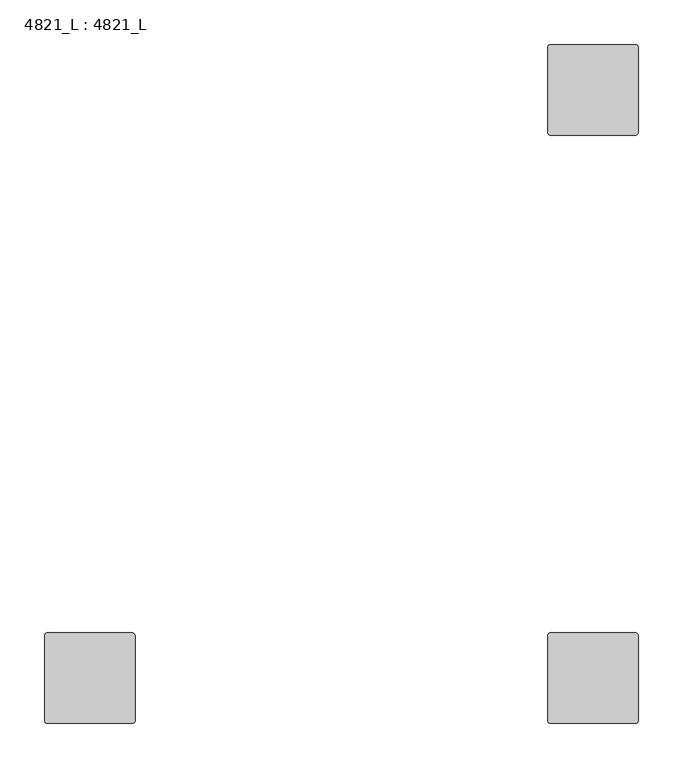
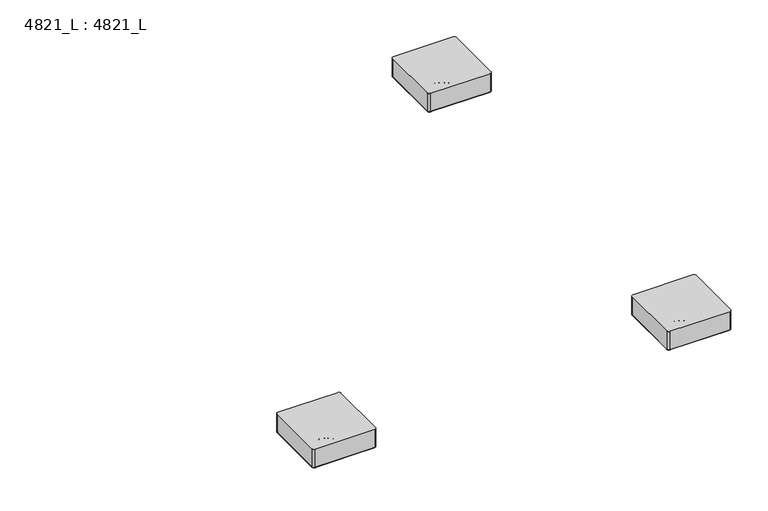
"""IFC4 building model written with IfcOpenShell, lengths in millimetres: furniture geometry, 4821_L : 4821_L."""

from ifc_helpers import new_model, si_unit, point, frame, frame_2d, origin, place, context, project, spatial, polyline, circle_curve, ellipse_curve, trimmed, segment, composite_curve, outline, extrude, source, transform, mapped, element, save
from ifc_brep_helpers import plane_surface, cylinder_surface, revolved_surface, advanced_brep


def furniture_4821_l_4821_l_946ea36c(model_context):
    return source(origin(), model_context, "Body", "SolidModel", [
        advanced_brep(
        [(155.575, -698.5, 41.5925), (60.325, -698.5, 41.5925), (57.15, -701.675, 41.5925), (57.15, -796.925, 41.5925), (60.325, -800.1, 41.5925), (155.575, -800.1, 41.5925), (158.75, -796.925, 41.5925), (158.75, -701.675, 41.5925), (58.42, -701.675, 11.1125), (60.325, -699.77, 11.1125), (155.575, -699.77, 11.1125), (157.48, -701.675, 11.1125), (157.48, -796.925, 11.1125), (155.575, -798.83, 11.1125), (60.325, -798.83, 11.1125), (58.42, -796.925, 11.1125), (155.575, -698.5, 11.1125), (60.325, -698.5, 11.1125), (57.15, -701.675, 11.1125), (57.15, -796.925, 11.1125), (60.325, -800.1, 11.1125), (155.575, -800.1, 11.1125), (158.75, -796.925, 11.1125), (158.75, -701.675, 11.1125), (60.325, -699.77, 9.8425), (58.42, -701.675, 9.8425), (155.575, -699.77, 9.8425), (157.48, -701.675, 9.8425), (157.48, -796.925, 9.8425), (155.575, -798.83, 9.8425), (60.325, -798.83, 9.8425), (58.42, -796.925, 9.8425)],
        [
            (0, 1),
            (1, 2, circle_curve(frame((60.325, -701.675, 41.5925), z_axis=(0.0, 0.0, 1.0), x_axis=(1.0, 0.0, 0.0)), 3.175)),
            (2, 3),
            (3, 4, circle_curve(frame((60.325, -796.925, 41.5925), z_axis=(0.0, 0.0, 1.0), x_axis=(1.0, 0.0, 0.0)), 3.175)),
            (4, 5),
            (5, 6, circle_curve(frame((155.575, -796.925, 41.5925), z_axis=(0.0, 0.0, 1.0), x_axis=(1.0, 0.0, 0.0)), 3.175)),
            (6, 7),
            (7, 0, circle_curve(frame((155.575, -701.675, 41.5925), z_axis=(0.0, 0.0, 1.0), x_axis=(1.0, 0.0, 0.0)), 3.175)),
            (8, 9, circle_curve(frame((60.325, -701.675, 11.1125), z_axis=(0.0, 0.0, -1.0), x_axis=(-1.0, 0.0, 0.0)), 1.905)),
            (9, 10),
            (10, 11, circle_curve(frame((155.575, -701.675, 11.1125), z_axis=(0.0, 0.0, -1.0), x_axis=(0.0, 1.0, 0.0)), 1.905)),
            (11, 12),
            (12, 13, circle_curve(frame((155.575, -796.925, 11.1125), z_axis=(0.0, 0.0, -1.0), x_axis=(1.0, 0.0, 0.0)), 1.905)),
            (13, 14),
            (14, 15, circle_curve(frame((60.325, -796.925, 11.1125), z_axis=(0.0, 0.0, -1.0), x_axis=(0.0, -1.0, 0.0)), 1.905)),
            (15, 8),
            (0, 16),
            (16, 17),
            (17, 1),
            (17, 18, circle_curve(frame((60.325, -701.675, 11.1125), z_axis=(0.0, 0.0, 1.0), x_axis=(1.0, 0.0, 0.0)), 3.175)),
            (18, 2),
            (18, 19),
            (19, 3),
            (19, 20, circle_curve(frame((60.325, -796.925, 11.1125), z_axis=(0.0, 0.0, 1.0), x_axis=(1.0, 0.0, 0.0)), 3.175)),
            (20, 4),
            (20, 21),
            (21, 5),
            (21, 22, circle_curve(frame((155.575, -796.925, 11.1125), z_axis=(0.0, 0.0, 1.0), x_axis=(1.0, 0.0, 0.0)), 3.175)),
            (22, 6),
            (22, 23),
            (23, 7),
            (23, 16, circle_curve(frame((155.575, -701.675, 11.1125), z_axis=(0.0, 0.0, 1.0), x_axis=(1.0, 0.0, 0.0)), 3.175)),
            (24, 25, circle_curve(frame((60.325, -701.675, 9.8425), z_axis=(0.0, 0.0, 1.0), x_axis=(-1.0, 0.0, 0.0)), 1.905)),
            (25, 18, circle_curve(frame((58.42, -701.675, 11.1125), z_axis=(0.0, 1.0, 0.0), x_axis=(1.0, 0.0, 0.0)), 1.27)),
            (17, 24, circle_curve(frame((60.325, -699.77, 11.1125), z_axis=(-1.0, 0.0, 0.0), x_axis=(0.0, -1.0, 0.0)), 1.27)),
            (16, 26, circle_curve(frame((155.575, -699.77, 11.1125), z_axis=(-1.0, 0.0, 0.0), x_axis=(0.0, -1.0, 0.0)), 1.27)),
            (26, 24),
            (23, 27, circle_curve(frame((157.48, -701.675, 11.1125), z_axis=(0.0, 1.0, 0.0), x_axis=(-1.0, 0.0, 0.0)), 1.27)),
            (27, 26, circle_curve(frame((155.575, -701.675, 9.8425), z_axis=(0.0, 0.0, 1.0), x_axis=(0.0, 1.0, 0.0)), 1.905)),
            (22, 28, circle_curve(frame((157.48, -796.925, 11.1125), z_axis=(0.0, 1.0, 0.0), x_axis=(-1.0, 0.0, 0.0)), 1.27)),
            (28, 27),
            (21, 29, circle_curve(frame((155.575, -798.83, 11.1125), z_axis=(1.0, 0.0, 0.0), x_axis=(0.0, 1.0, 0.0)), 1.27)),
            (29, 28, circle_curve(frame((155.575, -796.925, 9.8425), z_axis=(0.0, 0.0, 1.0), x_axis=(1.0, 0.0, 0.0)), 1.905)),
            (20, 30, circle_curve(frame((60.325, -798.83, 11.1125), z_axis=(1.0, 0.0, 0.0), x_axis=(0.0, 1.0, 0.0)), 1.27)),
            (30, 29),
            (19, 31, circle_curve(frame((58.42, -796.925, 11.1125), z_axis=(0.0, -1.0, 0.0), x_axis=(1.0, 0.0, 0.0)), 1.27)),
            (31, 30, circle_curve(frame((60.325, -796.925, 9.8425), z_axis=(0.0, 0.0, 1.0), x_axis=(0.0, -1.0, 0.0)), 1.905)),
            (25, 31),
            (24, 9),
            (8, 25),
            (26, 10),
            (27, 11),
            (28, 12),
            (29, 13),
            (30, 14),
            (31, 15),
        ],
        [
            plane_surface(frame((60.325, -698.5, 41.5925), z_axis=(0.0, 0.0, 1.0), x_axis=(-1.0, 0.0, 0.0))),
            plane_surface(frame((60.325, -698.5, 11.1125), z_axis=(0.0, 0.0, -1.0), x_axis=(1.0, 0.0, 0.0))),
            plane_surface(frame((155.575, -698.5, 41.5925), z_axis=(0.0, 1.0, 0.0), x_axis=(0.0, 0.0, -1.0))),
            cylinder_surface(frame((60.325, -701.675, 11.1125), z_axis=(0.0, 0.0, 1.0), x_axis=(1.0, 0.0, 0.0)), 3.175),
            plane_surface(frame((57.15, -701.675, 41.5925), z_axis=(-1.0, 0.0, 0.0), x_axis=(0.0, 0.0, -1.0))),
            cylinder_surface(frame((60.325, -796.925, 11.1125), z_axis=(0.0, 0.0, 1.0), x_axis=(1.0, 0.0, 0.0)), 3.175),
            plane_surface(frame((60.325, -800.1, 41.5925), z_axis=(0.0, -1.0, 0.0), x_axis=(0.0, 0.0, -1.0))),
            cylinder_surface(frame((155.575, -796.925, 11.1125), z_axis=(0.0, 0.0, 1.0), x_axis=(1.0, 0.0, 0.0)), 3.175),
            plane_surface(frame((158.75, -796.925, 41.5925), z_axis=(1.0, 0.0, 0.0), x_axis=(0.0, 0.0, -1.0))),
            cylinder_surface(frame((155.575, -701.675, 11.1125), z_axis=(0.0, 0.0, 1.0), x_axis=(1.0, 0.0, 0.0)), 3.175),
            revolved_surface(trimmed(ellipse_curve(frame((58.42, -701.675, 11.1125), z_axis=(0.0, -1.0, 0.0), x_axis=(1.0, 0.0, 0.0)), 1.27, 1.27), [point((57.15, -701.675, 11.1125))], [point((58.42, -701.675, 9.8425))], True, "CARTESIAN"), (60.325, -701.675, 11.1125), (0.0, 0.0, -1.0)),
            cylinder_surface(frame((60.325, -699.77, 11.1125), z_axis=(-1.0, 0.0, 0.0), x_axis=(0.0, -1.0, 0.0)), 1.27),
            revolved_surface(trimmed(ellipse_curve(frame((155.575, -699.77, 11.1125), z_axis=(-1.0, 0.0, 0.0), x_axis=(0.0, -1.0, 0.0)), 1.27, 1.27), [point((155.575, -698.5, 11.1125))], [point((155.575, -699.77, 9.8425))], True, "CARTESIAN"), (155.575, -701.675, 11.1125), (0.0, 0.0, -1.0)),
            cylinder_surface(frame((157.48, -701.675, 11.1125), z_axis=(0.0, 1.0, 0.0), x_axis=(-1.0, 0.0, 0.0)), 1.27),
            revolved_surface(trimmed(ellipse_curve(frame((157.48, -796.925, 11.1125), z_axis=(0.0, 1.0, 0.0), x_axis=(-1.0, 0.0, 0.0)), 1.27, 1.27), [point((158.75, -796.925, 11.1125))], [point((157.48, -796.925, 9.8425))], True, "CARTESIAN"), (155.575, -796.925, 11.1125), (0.0, 0.0, -1.0)),
            cylinder_surface(frame((155.575, -798.83, 11.1125), z_axis=(1.0, 0.0, 0.0), x_axis=(0.0, 1.0, 0.0)), 1.27),
            revolved_surface(trimmed(ellipse_curve(frame((60.325, -798.83, 11.1125), z_axis=(1.0, 0.0, 0.0), x_axis=(0.0, 1.0, 0.0)), 1.27, 1.27), [point((60.325, -800.1, 11.1125))], [point((60.325, -798.83, 9.8425))], True, "CARTESIAN"), (60.325, -796.925, 11.1125), (0.0, 0.0, -1.0)),
            cylinder_surface(frame((58.42, -796.925, 11.1125), z_axis=(0.0, -1.0, 0.0), x_axis=(1.0, 0.0, 0.0)), 1.27),
            revolved_surface(polyline([(58.42, -701.675, 9.8425), (58.42, -701.675, 11.1125)]), (60.325, -701.675, 11.1125), (0.0, 0.0, -1.0)),
            plane_surface(frame((60.325, -699.77, 9.8425), z_axis=(0.0, -1.0, 0.0), x_axis=(1.0, 0.0, 0.0))),
            revolved_surface(polyline([(155.575, -699.77, 9.8425), (155.575, -699.77, 11.1125)]), (155.575, -701.675, 11.1125), (0.0, 0.0, -1.0)),
            plane_surface(frame((157.48, -701.675, 9.8425), z_axis=(-1.0, 0.0, 0.0), x_axis=(0.0, -1.0, 0.0))),
            revolved_surface(polyline([(157.48, -796.925, 9.8425), (157.48, -796.925, 11.1125)]), (155.575, -796.925, 11.1125), (0.0, 0.0, -1.0)),
            plane_surface(frame((155.575, -798.83, 9.8425), z_axis=(0.0, 1.0, 0.0), x_axis=(-1.0, 0.0, 0.0))),
            revolved_surface(polyline([(60.325, -798.8299999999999, 9.8425), (60.325, -798.8299999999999, 11.1125)]), (60.325, -796.925, 11.1125), (0.0, 0.0, -1.0)),
            plane_surface(frame((58.42, -796.925, 9.8425), z_axis=(1.0, 0.0, 0.0), x_axis=(0.0, 1.0, 0.0))),
        ],
        [
            (0, [[1, 2, 3, 4, 5, 6, 7, 8]]),
            (1, [[9, 10, 11, 12, 13, 14, 15, 16]]),
            (2, [[-1, 17, 18, 19]]),
            (3, [[-2, -19, 20, 21]]),
            (4, [[-3, -21, 22, 23]]),
            (5, [[-4, -23, 24, 25]]),
            (6, [[-5, -25, 26, 27]]),
            (7, [[-6, -27, 28, 29]]),
            (8, [[-7, -29, 30, 31]]),
            (9, [[-8, -31, 32, -17]]),
            (10, [[33, 34, -20, 35]]),
            (11, [[-35, -18, 36, 37]]),
            (12, [[-36, -32, 38, 39]]),
            (13, [[-38, -30, 40, 41]]),
            (14, [[-40, -28, 42, 43]]),
            (15, [[-42, -26, 44, 45]]),
            (16, [[-44, -24, 46, 47]]),
            (17, [[-34, 48, -46, -22]]),
            (18, [[-33, 49, -9, 50]]),
            (19, [[-37, 51, -10, -49]]),
            (20, [[-39, 52, -11, -51]]),
            (21, [[-41, 53, -12, -52]]),
            (22, [[-43, 54, -13, -53]]),
            (23, [[-45, 55, -14, -54]]),
            (24, [[-47, 56, -15, -55]]),
            (25, [[-48, -50, -16, -56]]),
        ],
    ),
        extrude(outline(composite_curve([segment(trimmed(circle_curve(frame_2d((60.325, -796.925)), 1.905), [point((60.325, -798.83))], [point((58.42, -796.925))], False, "CARTESIAN"), True, "CONTINUOUS"), segment(polyline([(58.42, -796.925), (58.42, -701.675)]), True, "CONTINUOUS"), segment(trimmed(circle_curve(frame_2d((60.325, -701.675)), 1.905), [point((58.42, -701.675))], [point((60.325, -699.77))], False, "CARTESIAN"), True, "CONTINUOUS"), segment(polyline([(60.325, -699.77), (155.575, -699.77)]), True, "CONTINUOUS"), segment(trimmed(circle_curve(frame_2d((155.575, -701.675)), 1.905), [point((155.575, -699.77))], [point((157.48, -701.675))], False, "CARTESIAN"), True, "CONTINUOUS"), segment(polyline([(157.48, -701.675), (157.48, -796.925)]), True, "CONTINUOUS"), segment(trimmed(circle_curve(frame_2d((155.575, -796.925)), 1.905), [point((157.48, -796.925))], [point((155.575, -798.83))], False, "CARTESIAN"), True, "CONTINUOUS"), segment(polyline([(155.575, -798.83), (60.325, -798.83)]), True, "CONTINUOUS")], self_intersect=False)), frame((0.0, 0.0, 9.8425), z_axis=(0.0, 0.0, 1.0), x_axis=(1.0, 0.0, 0.0)), (0.0, 0.0, 1.0), 1.27),
        advanced_brep(
        [(97.7978666, -749.3, 0.0), (118.1021334, -749.3, 0.0), (107.95, -749.3, 0.0), (97.4725, -749.3, 5.08), (118.4275, -749.3, 5.08), (97.4725, -749.3, 9.0481974), (118.4275, -749.3, 9.0481974), (98.2668026, -749.3, 9.8425), (117.6331974, -749.3, 9.8425), (107.95, -749.3, 9.8425)],
        [
            (0, 1, circle_curve(frame((107.95, -749.3, 0.0), z_axis=(0.0, 0.0, -1.0), x_axis=(1.0, 0.0, 0.0)), 10.1521334)),
            (1, 2),
            (2, 0),
            (1, 0, circle_curve(frame((107.95, -749.3, 0.0), z_axis=(0.0, 0.0, -1.0), x_axis=(1.0, 0.0, 0.0)), 10.1521334)),
            (3, 4, circle_curve(frame((107.95, -749.3, 5.08), z_axis=(0.0, 0.0, -1.0), x_axis=(1.0, 0.0, 0.0)), 10.4775)),
            (4, 1, circle_curve(frame((118.1021334, -749.3, 2.5504196), z_axis=(0.0, 1.0, 0.0), x_axis=(1.0, 0.0, 0.0)), 2.5504196)),
            (0, 3, circle_curve(frame((97.7978666, -749.3, 2.5504196), z_axis=(0.0, 1.0, 0.0), x_axis=(-1.0, 0.0, 0.0)), 2.5504196)),
            (4, 3, circle_curve(frame((107.95, -749.3, 5.08), z_axis=(0.0, 0.0, -1.0), x_axis=(1.0, 0.0, 0.0)), 10.4775)),
            (5, 6, circle_curve(frame((107.95, -749.3, 9.0481974), z_axis=(0.0, 0.0, -1.0), x_axis=(1.0, 0.0, 0.0)), 10.4775)),
            (6, 4),
            (3, 5),
            (6, 5, circle_curve(frame((107.95, -749.3, 9.0481974), z_axis=(0.0, 0.0, -1.0), x_axis=(1.0, 0.0, 0.0)), 10.4775)),
            (7, 8, circle_curve(frame((107.95, -749.3, 9.8425), z_axis=(0.0, 0.0, -1.0), x_axis=(1.0, 0.0, 0.0)), 9.6831974)),
            (8, 6, circle_curve(frame((117.6331974, -749.3, 9.0481974), z_axis=(0.0, 1.0, 0.0), x_axis=(1.0, 0.0, 0.0)), 0.7943026)),
            (5, 7, circle_curve(frame((98.2668026, -749.3, 9.0481974), z_axis=(0.0, 1.0, 0.0), x_axis=(-1.0, 0.0, 0.0)), 0.7943026)),
            (8, 7, circle_curve(frame((107.95, -749.3, 9.8425), z_axis=(0.0, 0.0, -1.0), x_axis=(1.0, 0.0, 0.0)), 9.6831974)),
            (9, 8),
            (7, 9),
        ],
        [
            plane_surface(frame((107.95, -749.3, 0.0), z_axis=(0.0, 0.0, -1.0), x_axis=(1.0, 0.0, 0.0))),
            revolved_surface(trimmed(ellipse_curve(frame((118.1021334, -749.3, 2.5504196), z_axis=(0.0, -1.0, 0.0), x_axis=(1.0, 0.0, 0.0)), 2.5504196, 2.5504196), [point((118.1021334, -749.3, 0.0))], [point((118.4275, -749.3, 5.08))], True, "CARTESIAN"), (107.95, -749.3, 9.8425), (0.0, 0.0, 1.0)),
            cylinder_surface(frame((107.95, -749.3, 9.8425), z_axis=(0.0, 0.0, 1.0), x_axis=(1.0, 0.0, 0.0)), 10.4775),
            revolved_surface(trimmed(ellipse_curve(frame((117.6331974, -749.3, 9.0481974), z_axis=(0.0, -1.0, 0.0), x_axis=(1.0, 0.0, 0.0)), 0.7943026, 0.7943026), [point((118.4275, -749.3, 9.0481974))], [point((117.6331974, -749.3, 9.8425))], True, "CARTESIAN"), (107.95, -749.3, 9.8425), (0.0, 0.0, 1.0)),
            plane_surface(frame((107.95, -749.3, 9.8425), z_axis=(0.0, 0.0, 1.0), x_axis=(1.0, 0.0, 0.0))),
        ],
        [
            (0, [[1, 2, 3]]),
            (0, [[4, -3, -2]]),
            (1, [[5, 6, -1, 7]]),
            (1, [[8, -7, -4, -6]]),
            (2, [[9, 10, -5, 11]]),
            (2, [[12, -11, -8, -10]]),
            (3, [[13, 14, -9, 15]]),
            (3, [[16, -15, -12, -14]]),
            (4, [[17, -13, 18]]),
            (4, [[-18, -16, -17]]),
        ],
    ),
        advanced_brep(
        [(720.725, -698.5, 41.5925), (625.475, -698.5, 41.5925), (622.3, -701.675, 41.5925), (622.3, -796.925, 41.5925), (625.475, -800.1, 41.5925), (720.725, -800.1, 41.5925), (723.9, -796.925, 41.5925), (723.9, -701.675, 41.5925), (623.57, -701.675, 11.1125), (625.475, -699.77, 11.1125), (720.725, -699.77, 11.1125), (722.63, -701.675, 11.1125), (722.63, -796.925, 11.1125), (720.725, -798.83, 11.1125), (625.475, -798.83, 11.1125), (623.57, -796.925, 11.1125), (720.725, -698.5, 11.1125), (625.475, -698.5, 11.1125), (622.3, -701.675, 11.1125), (622.3, -796.925, 11.1125), (625.475, -800.1, 11.1125), (720.725, -800.1, 11.1125), (723.9, -796.925, 11.1125), (723.9, -701.675, 11.1125), (625.475, -699.77, 9.8425), (623.57, -701.675, 9.8425), (720.725, -699.77, 9.8425), (722.63, -701.675, 9.8425), (722.63, -796.925, 9.8425), (720.725, -798.83, 9.8425), (625.475, -798.83, 9.8425), (623.57, -796.925, 9.8425)],
        [
            (0, 1),
            (1, 2, circle_curve(frame((625.475, -701.675, 41.5925), z_axis=(0.0, 0.0, 1.0), x_axis=(1.0, 0.0, 0.0)), 3.175)),
            (2, 3),
            (3, 4, circle_curve(frame((625.475, -796.925, 41.5925), z_axis=(0.0, 0.0, 1.0), x_axis=(1.0, 0.0, 0.0)), 3.175)),
            (4, 5),
            (5, 6, circle_curve(frame((720.725, -796.925, 41.5925), z_axis=(0.0, 0.0, 1.0), x_axis=(1.0, 0.0, 0.0)), 3.175)),
            (6, 7),
            (7, 0, circle_curve(frame((720.725, -701.675, 41.5925), z_axis=(0.0, 0.0, 1.0), x_axis=(1.0, 0.0, 0.0)), 3.175)),
            (8, 9, circle_curve(frame((625.475, -701.675, 11.1125), z_axis=(0.0, 0.0, -1.0), x_axis=(-1.0, 0.0, 0.0)), 1.905)),
            (9, 10),
            (10, 11, circle_curve(frame((720.725, -701.675, 11.1125), z_axis=(0.0, 0.0, -1.0), x_axis=(0.0, 1.0, 0.0)), 1.905)),
            (11, 12),
            (12, 13, circle_curve(frame((720.725, -796.925, 11.1125), z_axis=(0.0, 0.0, -1.0), x_axis=(1.0, 0.0, 0.0)), 1.905)),
            (13, 14),
            (14, 15, circle_curve(frame((625.475, -796.925, 11.1125), z_axis=(0.0, 0.0, -1.0), x_axis=(0.0, -1.0, 0.0)), 1.905)),
            (15, 8),
            (0, 16),
            (16, 17),
            (17, 1),
            (17, 18, circle_curve(frame((625.475, -701.675, 11.1125), z_axis=(0.0, 0.0, 1.0), x_axis=(1.0, 0.0, 0.0)), 3.175)),
            (18, 2),
            (18, 19),
            (19, 3),
            (19, 20, circle_curve(frame((625.475, -796.925, 11.1125), z_axis=(0.0, 0.0, 1.0), x_axis=(1.0, 0.0, 0.0)), 3.175)),
            (20, 4),
            (20, 21),
            (21, 5),
            (21, 22, circle_curve(frame((720.725, -796.925, 11.1125), z_axis=(0.0, 0.0, 1.0), x_axis=(1.0, 0.0, 0.0)), 3.175)),
            (22, 6),
            (22, 23),
            (23, 7),
            (23, 16, circle_curve(frame((720.725, -701.675, 11.1125), z_axis=(0.0, 0.0, 1.0), x_axis=(1.0, 0.0, 0.0)), 3.175)),
            (24, 25, circle_curve(frame((625.475, -701.675, 9.8425), z_axis=(0.0, 0.0, 1.0), x_axis=(-1.0, 0.0, 0.0)), 1.905)),
            (25, 18, circle_curve(frame((623.57, -701.675, 11.1125), z_axis=(0.0, 1.0, 0.0), x_axis=(1.0, 0.0, 0.0)), 1.27)),
            (17, 24, circle_curve(frame((625.475, -699.77, 11.1125), z_axis=(-1.0, 0.0, 0.0), x_axis=(0.0, -1.0, 0.0)), 1.27)),
            (16, 26, circle_curve(frame((720.725, -699.77, 11.1125), z_axis=(-1.0, 0.0, 0.0), x_axis=(0.0, -1.0, 0.0)), 1.27)),
            (26, 24),
            (23, 27, circle_curve(frame((722.63, -701.675, 11.1125), z_axis=(0.0, 1.0, 0.0), x_axis=(-1.0, 0.0, 0.0)), 1.27)),
            (27, 26, circle_curve(frame((720.725, -701.675, 9.8425), z_axis=(0.0, 0.0, 1.0), x_axis=(0.0, 1.0, 0.0)), 1.905)),
            (22, 28, circle_curve(frame((722.63, -796.925, 11.1125), z_axis=(0.0, 1.0, 0.0), x_axis=(-1.0, 0.0, 0.0)), 1.27)),
            (28, 27),
            (21, 29, circle_curve(frame((720.725, -798.83, 11.1125), z_axis=(1.0, 0.0, 0.0), x_axis=(0.0, 1.0, 0.0)), 1.27)),
            (29, 28, circle_curve(frame((720.725, -796.925, 9.8425), z_axis=(0.0, 0.0, 1.0), x_axis=(1.0, 0.0, 0.0)), 1.905)),
            (20, 30, circle_curve(frame((625.475, -798.83, 11.1125), z_axis=(1.0, 0.0, 0.0), x_axis=(0.0, 1.0, 0.0)), 1.27)),
            (30, 29),
            (19, 31, circle_curve(frame((623.57, -796.925, 11.1125), z_axis=(0.0, -1.0, 0.0), x_axis=(1.0, 0.0, 0.0)), 1.27)),
            (31, 30, circle_curve(frame((625.475, -796.925, 9.8425), z_axis=(0.0, 0.0, 1.0), x_axis=(0.0, -1.0, 0.0)), 1.905)),
            (25, 31),
            (24, 9),
            (8, 25),
            (26, 10),
            (27, 11),
            (28, 12),
            (29, 13),
            (30, 14),
            (31, 15),
        ],
        [
            plane_surface(frame((625.475, -698.5, 41.5925), z_axis=(0.0, 0.0, 1.0), x_axis=(-1.0, 0.0, 0.0))),
            plane_surface(frame((625.475, -698.5, 11.1125), z_axis=(0.0, 0.0, -1.0), x_axis=(1.0, 0.0, 0.0))),
            plane_surface(frame((720.725, -698.5, 41.5925), z_axis=(0.0, 1.0, 0.0), x_axis=(0.0, 0.0, -1.0))),
            cylinder_surface(frame((625.475, -701.675, 11.1125), z_axis=(0.0, 0.0, 1.0), x_axis=(1.0, 0.0, 0.0)), 3.175),
            plane_surface(frame((622.3, -701.675, 41.5925), z_axis=(-1.0, 0.0, 0.0), x_axis=(0.0, 0.0, -1.0))),
            cylinder_surface(frame((625.475, -796.925, 11.1125), z_axis=(0.0, 0.0, 1.0), x_axis=(1.0, 0.0, 0.0)), 3.175),
            plane_surface(frame((625.475, -800.1, 41.5925), z_axis=(0.0, -1.0, 0.0), x_axis=(0.0, 0.0, -1.0))),
            cylinder_surface(frame((720.725, -796.925, 11.1125), z_axis=(0.0, 0.0, 1.0), x_axis=(1.0, 0.0, 0.0)), 3.175),
            plane_surface(frame((723.9, -796.925, 41.5925), z_axis=(1.0, 0.0, 0.0), x_axis=(0.0, 0.0, -1.0))),
            cylinder_surface(frame((720.725, -701.675, 11.1125), z_axis=(0.0, 0.0, 1.0), x_axis=(1.0, 0.0, 0.0)), 3.175),
            revolved_surface(trimmed(ellipse_curve(frame((623.57, -701.675, 11.1125), z_axis=(0.0, -1.0, 0.0), x_axis=(1.0, 0.0, 0.0)), 1.27, 1.27), [point((622.3, -701.675, 11.1125))], [point((623.57, -701.675, 9.8425))], True, "CARTESIAN"), (625.475, -701.675, 11.1125), (0.0, 0.0, -1.0)),
            cylinder_surface(frame((625.475, -699.77, 11.1125), z_axis=(-1.0, 0.0, 0.0), x_axis=(0.0, -1.0, 0.0)), 1.27),
            revolved_surface(trimmed(ellipse_curve(frame((720.725, -699.77, 11.1125), z_axis=(-1.0, 0.0, 0.0), x_axis=(0.0, -1.0, 0.0)), 1.27, 1.27), [point((720.725, -698.5, 11.1125))], [point((720.725, -699.77, 9.8425))], True, "CARTESIAN"), (720.725, -701.675, 11.1125), (0.0, 0.0, -1.0)),
            cylinder_surface(frame((722.63, -701.675, 11.1125), z_axis=(0.0, 1.0, 0.0), x_axis=(-1.0, 0.0, 0.0)), 1.27),
            revolved_surface(trimmed(ellipse_curve(frame((722.63, -796.925, 11.1125), z_axis=(0.0, 1.0, 0.0), x_axis=(-1.0, 0.0, 0.0)), 1.27, 1.27), [point((723.9, -796.925, 11.1125))], [point((722.63, -796.925, 9.8425))], True, "CARTESIAN"), (720.725, -796.925, 11.1125), (0.0, 0.0, -1.0)),
            cylinder_surface(frame((720.725, -798.83, 11.1125), z_axis=(1.0, 0.0, 0.0), x_axis=(0.0, 1.0, 0.0)), 1.27),
            revolved_surface(trimmed(ellipse_curve(frame((625.475, -798.83, 11.1125), z_axis=(1.0, 0.0, 0.0), x_axis=(0.0, 1.0, 0.0)), 1.27, 1.27), [point((625.475, -800.1, 11.1125))], [point((625.475, -798.83, 9.8425))], True, "CARTESIAN"), (625.475, -796.925, 11.1125), (0.0, 0.0, -1.0)),
            cylinder_surface(frame((623.57, -796.925, 11.1125), z_axis=(0.0, -1.0, 0.0), x_axis=(1.0, 0.0, 0.0)), 1.27),
            revolved_surface(polyline([(623.57, -701.675, 9.8425), (623.57, -701.675, 11.1125)]), (625.475, -701.675, 11.1125), (0.0, 0.0, -1.0)),
            plane_surface(frame((625.475, -699.77, 9.8425), z_axis=(0.0, -1.0, 0.0), x_axis=(1.0, 0.0, 0.0))),
            revolved_surface(polyline([(720.725, -699.77, 9.8425), (720.725, -699.77, 11.1125)]), (720.725, -701.675, 11.1125), (0.0, 0.0, -1.0)),
            plane_surface(frame((722.63, -701.675, 9.8425), z_axis=(-1.0, 0.0, 0.0), x_axis=(0.0, -1.0, 0.0))),
            revolved_surface(polyline([(722.63, -796.925, 9.8425), (722.63, -796.925, 11.1125)]), (720.725, -796.925, 11.1125), (0.0, 0.0, -1.0)),
            plane_surface(frame((720.725, -798.83, 9.8425), z_axis=(0.0, 1.0, 0.0), x_axis=(-1.0, 0.0, 0.0))),
            revolved_surface(polyline([(625.475, -798.8299999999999, 9.8425), (625.475, -798.8299999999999, 11.1125)]), (625.475, -796.925, 11.1125), (0.0, 0.0, -1.0)),
            plane_surface(frame((623.57, -796.925, 9.8425), z_axis=(1.0, 0.0, 0.0), x_axis=(0.0, 1.0, 0.0))),
        ],
        [
            (0, [[1, 2, 3, 4, 5, 6, 7, 8]]),
            (1, [[9, 10, 11, 12, 13, 14, 15, 16]]),
            (2, [[-1, 17, 18, 19]]),
            (3, [[-2, -19, 20, 21]]),
            (4, [[-3, -21, 22, 23]]),
            (5, [[-4, -23, 24, 25]]),
            (6, [[-5, -25, 26, 27]]),
            (7, [[-6, -27, 28, 29]]),
            (8, [[-7, -29, 30, 31]]),
            (9, [[-8, -31, 32, -17]]),
            (10, [[33, 34, -20, 35]]),
            (11, [[-35, -18, 36, 37]]),
            (12, [[-36, -32, 38, 39]]),
            (13, [[-38, -30, 40, 41]]),
            (14, [[-40, -28, 42, 43]]),
            (15, [[-42, -26, 44, 45]]),
            (16, [[-44, -24, 46, 47]]),
            (17, [[-34, 48, -46, -22]]),
            (18, [[-33, 49, -9, 50]]),
            (19, [[-37, 51, -10, -49]]),
            (20, [[-39, 52, -11, -51]]),
            (21, [[-41, 53, -12, -52]]),
            (22, [[-43, 54, -13, -53]]),
            (23, [[-45, 55, -14, -54]]),
            (24, [[-47, 56, -15, -55]]),
            (25, [[-48, -50, -16, -56]]),
        ],
    ),
        extrude(outline(composite_curve([segment(trimmed(circle_curve(frame_2d((625.475, -796.925)), 1.905), [point((625.475, -798.83))], [point((623.57, -796.925))], False, "CARTESIAN"), True, "CONTINUOUS"), segment(polyline([(623.57, -796.925), (623.57, -701.675)]), True, "CONTINUOUS"), segment(trimmed(circle_curve(frame_2d((625.475, -701.675)), 1.905), [point((623.57, -701.675))], [point((625.475, -699.77))], False, "CARTESIAN"), True, "CONTINUOUS"), segment(polyline([(625.475, -699.77), (720.725, -699.77)]), True, "CONTINUOUS"), segment(trimmed(circle_curve(frame_2d((720.725, -701.675)), 1.905), [point((720.725, -699.77))], [point((722.63, -701.675))], False, "CARTESIAN"), True, "CONTINUOUS"), segment(polyline([(722.63, -701.675), (722.63, -796.925)]), True, "CONTINUOUS"), segment(trimmed(circle_curve(frame_2d((720.725, -796.925)), 1.905), [point((722.63, -796.925))], [point((720.725, -798.83))], False, "CARTESIAN"), True, "CONTINUOUS"), segment(polyline([(720.725, -798.83), (625.475, -798.83)]), True, "CONTINUOUS")], self_intersect=False)), frame((0.0, 0.0, 9.8425), z_axis=(0.0, 0.0, 1.0), x_axis=(1.0, 0.0, 0.0)), (0.0, 0.0, 1.0), 1.27),
        advanced_brep(
        [(662.9478666, -749.3, 0.0), (683.2521334, -749.3, 0.0), (673.1, -749.3, 0.0), (662.6225, -749.3, 5.08), (683.5775, -749.3, 5.08), (662.6225, -749.3, 9.0481974), (683.5775, -749.3, 9.0481974), (663.4168026, -749.3, 9.8425), (682.7831974, -749.3, 9.8425), (673.1, -749.3, 9.8425)],
        [
            (0, 1, circle_curve(frame((673.1, -749.3, 0.0), z_axis=(0.0, 0.0, -1.0), x_axis=(1.0, 0.0, 0.0)), 10.1521334)),
            (1, 2),
            (2, 0),
            (1, 0, circle_curve(frame((673.1, -749.3, 0.0), z_axis=(0.0, 0.0, -1.0), x_axis=(1.0, 0.0, 0.0)), 10.1521334)),
            (3, 4, circle_curve(frame((673.1, -749.3, 5.08), z_axis=(0.0, 0.0, -1.0), x_axis=(1.0, 0.0, 0.0)), 10.4775)),
            (4, 1, circle_curve(frame((683.2521334, -749.3, 2.5504196), z_axis=(0.0, 1.0, 0.0), x_axis=(1.0, 0.0, 0.0)), 2.5504196)),
            (0, 3, circle_curve(frame((662.9478666, -749.3, 2.5504196), z_axis=(0.0, 1.0, 0.0), x_axis=(-1.0, 0.0, 0.0)), 2.5504196)),
            (4, 3, circle_curve(frame((673.1, -749.3, 5.08), z_axis=(0.0, 0.0, -1.0), x_axis=(1.0, 0.0, 0.0)), 10.4775)),
            (5, 6, circle_curve(frame((673.1, -749.3, 9.0481974), z_axis=(0.0, 0.0, -1.0), x_axis=(1.0, 0.0, 0.0)), 10.4775)),
            (6, 4),
            (3, 5),
            (6, 5, circle_curve(frame((673.1, -749.3, 9.0481974), z_axis=(0.0, 0.0, -1.0), x_axis=(1.0, 0.0, 0.0)), 10.4775)),
            (7, 8, circle_curve(frame((673.1, -749.3, 9.8425), z_axis=(0.0, 0.0, -1.0), x_axis=(1.0, 0.0, 0.0)), 9.6831974)),
            (8, 6, circle_curve(frame((682.7831974, -749.3, 9.0481974), z_axis=(0.0, 1.0, 0.0), x_axis=(1.0, 0.0, 0.0)), 0.7943026)),
            (5, 7, circle_curve(frame((663.4168026, -749.3, 9.0481974), z_axis=(0.0, 1.0, 0.0), x_axis=(-1.0, 0.0, 0.0)), 0.7943026)),
            (8, 7, circle_curve(frame((673.1, -749.3, 9.8425), z_axis=(0.0, 0.0, -1.0), x_axis=(1.0, 0.0, 0.0)), 9.6831974)),
            (9, 8),
            (7, 9),
        ],
        [
            plane_surface(frame((673.1, -749.3, 0.0), z_axis=(0.0, 0.0, -1.0), x_axis=(1.0, 0.0, 0.0))),
            revolved_surface(trimmed(ellipse_curve(frame((683.2521334, -749.3, 2.5504196), z_axis=(0.0, -1.0, 0.0), x_axis=(1.0, 0.0, 0.0)), 2.5504196, 2.5504196), [point((683.2521334, -749.3, 0.0))], [point((683.5775, -749.3, 5.08))], True, "CARTESIAN"), (673.1, -749.3, 9.8425), (0.0, 0.0, 1.0)),
            cylinder_surface(frame((673.1, -749.3, 9.8425), z_axis=(0.0, 0.0, 1.0), x_axis=(1.0, 0.0, 0.0)), 10.4775),
            revolved_surface(trimmed(ellipse_curve(frame((682.7831974, -749.3, 9.0481974), z_axis=(0.0, -1.0, 0.0), x_axis=(1.0, 0.0, 0.0)), 0.7943026, 0.7943026), [point((683.5775, -749.3, 9.0481974))], [point((682.7831974, -749.3, 9.8425))], True, "CARTESIAN"), (673.1, -749.3, 9.8425), (0.0, 0.0, 1.0)),
            plane_surface(frame((673.1, -749.3, 9.8425), z_axis=(0.0, 0.0, 1.0), x_axis=(1.0, 0.0, 0.0))),
        ],
        [
            (0, [[1, 2, 3]]),
            (0, [[4, -3, -2]]),
            (1, [[5, 6, -1, 7]]),
            (1, [[8, -7, -4, -6]]),
            (2, [[9, 10, -5, 11]]),
            (2, [[12, -11, -8, -10]]),
            (3, [[13, 14, -9, 15]]),
            (3, [[16, -15, -12, -14]]),
            (4, [[17, -13, 18]]),
            (4, [[-18, -16, -17]]),
        ],
    ),
        advanced_brep(
        [(720.725, -38.1, 41.5925), (625.475, -38.1, 41.5925), (622.3, -41.275, 41.5925), (622.3, -136.525, 41.5925), (625.475, -139.7, 41.5925), (720.725, -139.7, 41.5925), (723.9, -136.525, 41.5925), (723.9, -41.275, 41.5925), (623.57, -41.275, 11.1125), (625.475, -39.37, 11.1125), (720.725, -39.37, 11.1125), (722.63, -41.275, 11.1125), (722.63, -136.525, 11.1125), (720.725, -138.43, 11.1125), (625.475, -138.43, 11.1125), (623.57, -136.525, 11.1125), (720.725, -38.1, 11.1125), (625.475, -38.1, 11.1125), (622.3, -41.275, 11.1125), (622.3, -136.525, 11.1125), (625.475, -139.7, 11.1125), (720.725, -139.7, 11.1125), (723.9, -136.525, 11.1125), (723.9, -41.275, 11.1125), (625.475, -39.37, 9.8425), (623.57, -41.275, 9.8425), (720.725, -39.37, 9.8425), (722.63, -41.275, 9.8425), (722.63, -136.525, 9.8425), (720.725, -138.43, 9.8425), (625.475, -138.43, 9.8425), (623.57, -136.525, 9.8425)],
        [
            (0, 1),
            (1, 2, circle_curve(frame((625.475, -41.275, 41.5925), z_axis=(0.0, 0.0, 1.0), x_axis=(1.0, 0.0, 0.0)), 3.175)),
            (2, 3),
            (3, 4, circle_curve(frame((625.475, -136.525, 41.5925), z_axis=(0.0, 0.0, 1.0), x_axis=(1.0, 0.0, 0.0)), 3.175)),
            (4, 5),
            (5, 6, circle_curve(frame((720.725, -136.525, 41.5925), z_axis=(0.0, 0.0, 1.0), x_axis=(1.0, 0.0, 0.0)), 3.175)),
            (6, 7),
            (7, 0, circle_curve(frame((720.725, -41.275, 41.5925), z_axis=(0.0, 0.0, 1.0), x_axis=(1.0, 0.0, 0.0)), 3.175)),
            (8, 9, circle_curve(frame((625.475, -41.275, 11.1125), z_axis=(0.0, 0.0, -1.0), x_axis=(-1.0, 0.0, 0.0)), 1.905)),
            (9, 10),
            (10, 11, circle_curve(frame((720.725, -41.275, 11.1125), z_axis=(0.0, 0.0, -1.0), x_axis=(0.0, 1.0, 0.0)), 1.905)),
            (11, 12),
            (12, 13, circle_curve(frame((720.725, -136.525, 11.1125), z_axis=(0.0, 0.0, -1.0), x_axis=(1.0, 0.0, 0.0)), 1.905)),
            (13, 14),
            (14, 15, circle_curve(frame((625.475, -136.525, 11.1125), z_axis=(0.0, 0.0, -1.0), x_axis=(0.0, -1.0, 0.0)), 1.905)),
            (15, 8),
            (0, 16),
            (16, 17),
            (17, 1),
            (17, 18, circle_curve(frame((625.475, -41.275, 11.1125), z_axis=(0.0, 0.0, 1.0), x_axis=(1.0, 0.0, 0.0)), 3.175)),
            (18, 2),
            (18, 19),
            (19, 3),
            (19, 20, circle_curve(frame((625.475, -136.525, 11.1125), z_axis=(0.0, 0.0, 1.0), x_axis=(1.0, 0.0, 0.0)), 3.175)),
            (20, 4),
            (20, 21),
            (21, 5),
            (21, 22, circle_curve(frame((720.725, -136.525, 11.1125), z_axis=(0.0, 0.0, 1.0), x_axis=(1.0, 0.0, 0.0)), 3.175)),
            (22, 6),
            (22, 23),
            (23, 7),
            (23, 16, circle_curve(frame((720.725, -41.275, 11.1125), z_axis=(0.0, 0.0, 1.0), x_axis=(1.0, 0.0, 0.0)), 3.175)),
            (24, 25, circle_curve(frame((625.475, -41.275, 9.8425), z_axis=(0.0, 0.0, 1.0), x_axis=(-1.0, 0.0, 0.0)), 1.905)),
            (25, 18, circle_curve(frame((623.57, -41.275, 11.1125), z_axis=(0.0, 1.0, 0.0), x_axis=(1.0, 0.0, 0.0)), 1.27)),
            (17, 24, circle_curve(frame((625.475, -39.37, 11.1125), z_axis=(-1.0, 0.0, 0.0), x_axis=(0.0, -1.0, 0.0)), 1.27)),
            (16, 26, circle_curve(frame((720.725, -39.37, 11.1125), z_axis=(-1.0, 0.0, 0.0), x_axis=(0.0, -1.0, 0.0)), 1.27)),
            (26, 24),
            (23, 27, circle_curve(frame((722.63, -41.275, 11.1125), z_axis=(0.0, 1.0, 0.0), x_axis=(-1.0, 0.0, 0.0)), 1.27)),
            (27, 26, circle_curve(frame((720.725, -41.275, 9.8425), z_axis=(0.0, 0.0, 1.0), x_axis=(0.0, 1.0, 0.0)), 1.905)),
            (22, 28, circle_curve(frame((722.63, -136.525, 11.1125), z_axis=(0.0, 1.0, 0.0), x_axis=(-1.0, 0.0, 0.0)), 1.27)),
            (28, 27),
            (21, 29, circle_curve(frame((720.725, -138.43, 11.1125), z_axis=(1.0, 0.0, 0.0), x_axis=(0.0, 1.0, 0.0)), 1.27)),
            (29, 28, circle_curve(frame((720.725, -136.525, 9.8425), z_axis=(0.0, 0.0, 1.0), x_axis=(1.0, 0.0, 0.0)), 1.905)),
            (20, 30, circle_curve(frame((625.475, -138.43, 11.1125), z_axis=(1.0, 0.0, 0.0), x_axis=(0.0, 1.0, 0.0)), 1.27)),
            (30, 29),
            (19, 31, circle_curve(frame((623.57, -136.525, 11.1125), z_axis=(0.0, -1.0, 0.0), x_axis=(1.0, 0.0, 0.0)), 1.27)),
            (31, 30, circle_curve(frame((625.475, -136.525, 9.8425), z_axis=(0.0, 0.0, 1.0), x_axis=(0.0, -1.0, 0.0)), 1.905)),
            (25, 31),
            (24, 9),
            (8, 25),
            (26, 10),
            (27, 11),
            (28, 12),
            (29, 13),
            (30, 14),
            (31, 15),
        ],
        [
            plane_surface(frame((625.475, -38.1, 41.5925), z_axis=(0.0, 0.0, 1.0), x_axis=(-1.0, 0.0, 0.0))),
            plane_surface(frame((625.475, -38.1, 11.1125), z_axis=(0.0, 0.0, -1.0), x_axis=(1.0, 0.0, 0.0))),
            plane_surface(frame((720.725, -38.1, 41.5925), z_axis=(0.0, 1.0, 0.0), x_axis=(0.0, 0.0, -1.0))),
            cylinder_surface(frame((625.475, -41.275, 11.1125), z_axis=(0.0, 0.0, 1.0), x_axis=(1.0, 0.0, 0.0)), 3.175),
            plane_surface(frame((622.3, -41.275, 41.5925), z_axis=(-1.0, 0.0, 0.0), x_axis=(0.0, 0.0, -1.0))),
            cylinder_surface(frame((625.475, -136.525, 11.1125), z_axis=(0.0, 0.0, 1.0), x_axis=(1.0, 0.0, 0.0)), 3.175),
            plane_surface(frame((625.475, -139.7, 41.5925), z_axis=(0.0, -1.0, 0.0), x_axis=(0.0, 0.0, -1.0))),
            cylinder_surface(frame((720.725, -136.525, 11.1125), z_axis=(0.0, 0.0, 1.0), x_axis=(1.0, 0.0, 0.0)), 3.175),
            plane_surface(frame((723.9, -136.525, 41.5925), z_axis=(1.0, 0.0, 0.0), x_axis=(0.0, 0.0, -1.0))),
            cylinder_surface(frame((720.725, -41.275, 11.1125), z_axis=(0.0, 0.0, 1.0), x_axis=(1.0, 0.0, 0.0)), 3.175),
            revolved_surface(trimmed(ellipse_curve(frame((623.57, -41.275, 11.1125), z_axis=(0.0, -1.0, 0.0), x_axis=(1.0, 0.0, 0.0)), 1.27, 1.27), [point((622.3, -41.275, 11.1125))], [point((623.57, -41.275, 9.8425))], True, "CARTESIAN"), (625.475, -41.275, 11.1125), (0.0, 0.0, -1.0)),
            cylinder_surface(frame((625.475, -39.37, 11.1125), z_axis=(-1.0, 0.0, 0.0), x_axis=(0.0, -1.0, 0.0)), 1.27),
            revolved_surface(trimmed(ellipse_curve(frame((720.725, -39.37, 11.1125), z_axis=(-1.0, 0.0, 0.0), x_axis=(0.0, -1.0, 0.0)), 1.27, 1.27), [point((720.725, -38.1, 11.1125))], [point((720.725, -39.37, 9.8425))], True, "CARTESIAN"), (720.725, -41.275, 11.1125), (0.0, 0.0, -1.0)),
            cylinder_surface(frame((722.63, -41.275, 11.1125), z_axis=(0.0, 1.0, 0.0), x_axis=(-1.0, 0.0, 0.0)), 1.27),
            revolved_surface(trimmed(ellipse_curve(frame((722.63, -136.525, 11.1125), z_axis=(0.0, 1.0, 0.0), x_axis=(-1.0, 0.0, 0.0)), 1.27, 1.27), [point((723.9, -136.525, 11.1125))], [point((722.63, -136.525, 9.8425))], True, "CARTESIAN"), (720.725, -136.525, 11.1125), (0.0, 0.0, -1.0)),
            cylinder_surface(frame((720.725, -138.43, 11.1125), z_axis=(1.0, 0.0, 0.0), x_axis=(0.0, 1.0, 0.0)), 1.27),
            revolved_surface(trimmed(ellipse_curve(frame((625.475, -138.43, 11.1125), z_axis=(1.0, 0.0, 0.0), x_axis=(0.0, 1.0, 0.0)), 1.27, 1.27), [point((625.475, -139.7, 11.1125))], [point((625.475, -138.43, 9.8425))], True, "CARTESIAN"), (625.475, -136.525, 11.1125), (0.0, 0.0, -1.0)),
            cylinder_surface(frame((623.57, -136.525, 11.1125), z_axis=(0.0, -1.0, 0.0), x_axis=(1.0, 0.0, 0.0)), 1.27),
            revolved_surface(polyline([(623.57, -41.275, 9.8425), (623.57, -41.275, 11.1125)]), (625.475, -41.275, 11.1125), (0.0, 0.0, -1.0)),
            plane_surface(frame((625.475, -39.37, 9.8425), z_axis=(0.0, -1.0, 0.0), x_axis=(1.0, 0.0, 0.0))),
            revolved_surface(polyline([(720.725, -39.37, 9.8425), (720.725, -39.37, 11.1125)]), (720.725, -41.275, 11.1125), (0.0, 0.0, -1.0)),
            plane_surface(frame((722.63, -41.275, 9.8425), z_axis=(-1.0, 0.0, 0.0), x_axis=(0.0, -1.0, 0.0))),
            revolved_surface(polyline([(722.63, -136.525, 9.8425), (722.63, -136.525, 11.1125)]), (720.725, -136.525, 11.1125), (0.0, 0.0, -1.0)),
            plane_surface(frame((720.725, -138.43, 9.8425), z_axis=(0.0, 1.0, 0.0), x_axis=(-1.0, 0.0, 0.0))),
            revolved_surface(polyline([(625.475, -138.43, 9.8425), (625.475, -138.43, 11.1125)]), (625.475, -136.525, 11.1125), (0.0, 0.0, -1.0)),
            plane_surface(frame((623.57, -136.525, 9.8425), z_axis=(1.0, 0.0, 0.0), x_axis=(0.0, 1.0, 0.0))),
        ],
        [
            (0, [[1, 2, 3, 4, 5, 6, 7, 8]]),
            (1, [[9, 10, 11, 12, 13, 14, 15, 16]]),
            (2, [[-1, 17, 18, 19]]),
            (3, [[-2, -19, 20, 21]]),
            (4, [[-3, -21, 22, 23]]),
            (5, [[-4, -23, 24, 25]]),
            (6, [[-5, -25, 26, 27]]),
            (7, [[-6, -27, 28, 29]]),
            (8, [[-7, -29, 30, 31]]),
            (9, [[-8, -31, 32, -17]]),
            (10, [[33, 34, -20, 35]]),
            (11, [[-35, -18, 36, 37]]),
            (12, [[-36, -32, 38, 39]]),
            (13, [[-38, -30, 40, 41]]),
            (14, [[-40, -28, 42, 43]]),
            (15, [[-42, -26, 44, 45]]),
            (16, [[-44, -24, 46, 47]]),
            (17, [[-34, 48, -46, -22]]),
            (18, [[-33, 49, -9, 50]]),
            (19, [[-37, 51, -10, -49]]),
            (20, [[-39, 52, -11, -51]]),
            (21, [[-41, 53, -12, -52]]),
            (22, [[-43, 54, -13, -53]]),
            (23, [[-45, 55, -14, -54]]),
            (24, [[-47, 56, -15, -55]]),
            (25, [[-48, -50, -16, -56]]),
        ],
    ),
        extrude(outline(composite_curve([segment(trimmed(circle_curve(frame_2d((625.475, -136.525)), 1.905), [point((625.475, -138.43))], [point((623.57, -136.525))], False, "CARTESIAN"), True, "CONTINUOUS"), segment(polyline([(623.57, -136.525), (623.57, -41.275)]), True, "CONTINUOUS"), segment(trimmed(circle_curve(frame_2d((625.475, -41.275)), 1.905), [point((623.57, -41.275))], [point((625.475, -39.37))], False, "CARTESIAN"), True, "CONTINUOUS"), segment(polyline([(625.475, -39.37), (720.725, -39.37)]), True, "CONTINUOUS"), segment(trimmed(circle_curve(frame_2d((720.725, -41.275)), 1.905), [point((720.725, -39.37))], [point((722.63, -41.275))], False, "CARTESIAN"), True, "CONTINUOUS"), segment(polyline([(722.63, -41.275), (722.63, -136.525)]), True, "CONTINUOUS"), segment(trimmed(circle_curve(frame_2d((720.725, -136.525)), 1.905), [point((722.63, -136.525))], [point((720.725, -138.43))], False, "CARTESIAN"), True, "CONTINUOUS"), segment(polyline([(720.725, -138.43), (625.475, -138.43)]), True, "CONTINUOUS")], self_intersect=False)), frame((0.0, 0.0, 9.8425), z_axis=(0.0, 0.0, 1.0), x_axis=(1.0, 0.0, 0.0)), (0.0, 0.0, 1.0), 1.27),
        advanced_brep(
        [(662.9478666, -88.9, 0.0), (683.2521334, -88.9, 0.0), (673.1, -88.9, 0.0), (662.6225, -88.9, 5.08), (683.5775, -88.9, 5.08), (662.6225, -88.9, 9.0481974), (683.5775, -88.9, 9.0481974), (663.4168026, -88.9, 9.8425), (682.7831974, -88.9, 9.8425), (673.1, -88.9, 9.8425)],
        [
            (0, 1, circle_curve(frame((673.1, -88.9, 0.0), z_axis=(0.0, 0.0, -1.0), x_axis=(1.0, 0.0, 0.0)), 10.1521334)),
            (1, 2),
            (2, 0),
            (1, 0, circle_curve(frame((673.1, -88.9, 0.0), z_axis=(0.0, 0.0, -1.0), x_axis=(1.0, 0.0, 0.0)), 10.1521334)),
            (3, 4, circle_curve(frame((673.1, -88.9, 5.08), z_axis=(0.0, 0.0, -1.0), x_axis=(1.0, 0.0, 0.0)), 10.4775)),
            (4, 1, circle_curve(frame((683.2521334, -88.9, 2.5504196), z_axis=(0.0, 1.0, 0.0), x_axis=(1.0, 0.0, 0.0)), 2.5504196)),
            (0, 3, circle_curve(frame((662.9478666, -88.9, 2.5504196), z_axis=(0.0, 1.0, 0.0), x_axis=(-1.0, 0.0, 0.0)), 2.5504196)),
            (4, 3, circle_curve(frame((673.1, -88.9, 5.08), z_axis=(0.0, 0.0, -1.0), x_axis=(1.0, 0.0, 0.0)), 10.4775)),
            (5, 6, circle_curve(frame((673.1, -88.9, 9.0481974), z_axis=(0.0, 0.0, -1.0), x_axis=(1.0, 0.0, 0.0)), 10.4775)),
            (6, 4),
            (3, 5),
            (6, 5, circle_curve(frame((673.1, -88.9, 9.0481974), z_axis=(0.0, 0.0, -1.0), x_axis=(1.0, 0.0, 0.0)), 10.4775)),
            (7, 8, circle_curve(frame((673.1, -88.9, 9.8425), z_axis=(0.0, 0.0, -1.0), x_axis=(1.0, 0.0, 0.0)), 9.6831974)),
            (8, 6, circle_curve(frame((682.7831974, -88.9, 9.0481974), z_axis=(0.0, 1.0, 0.0), x_axis=(1.0, 0.0, 0.0)), 0.7943026)),
            (5, 7, circle_curve(frame((663.4168026, -88.9, 9.0481974), z_axis=(0.0, 1.0, 0.0), x_axis=(-1.0, 0.0, 0.0)), 0.7943026)),
            (8, 7, circle_curve(frame((673.1, -88.9, 9.8425), z_axis=(0.0, 0.0, -1.0), x_axis=(1.0, 0.0, 0.0)), 9.6831974)),
            (9, 8),
            (7, 9),
        ],
        [
            plane_surface(frame((673.1, -88.9, 0.0), z_axis=(0.0, 0.0, -1.0), x_axis=(1.0, 0.0, 0.0))),
            revolved_surface(trimmed(ellipse_curve(frame((683.2521334, -88.9, 2.5504196), z_axis=(0.0, -1.0, 0.0), x_axis=(1.0, 0.0, 0.0)), 2.5504196, 2.5504196), [point((683.2521334, -88.9, 0.0))], [point((683.5775, -88.9, 5.08))], True, "CARTESIAN"), (673.1, -88.9, 9.8425), (0.0, 0.0, 1.0)),
            cylinder_surface(frame((673.1, -88.9, 9.8425), z_axis=(0.0, 0.0, 1.0), x_axis=(1.0, 0.0, 0.0)), 10.4775),
            revolved_surface(trimmed(ellipse_curve(frame((682.7831974, -88.9, 9.0481974), z_axis=(0.0, -1.0, 0.0), x_axis=(1.0, 0.0, 0.0)), 0.7943026, 0.7943026), [point((683.5775, -88.9, 9.0481974))], [point((682.7831974, -88.9, 9.8425))], True, "CARTESIAN"), (673.1, -88.9, 9.8425), (0.0, 0.0, 1.0)),
            plane_surface(frame((673.1, -88.9, 9.8425), z_axis=(0.0, 0.0, 1.0), x_axis=(1.0, 0.0, 0.0))),
        ],
        [
            (0, [[1, 2, 3]]),
            (0, [[4, -3, -2]]),
            (1, [[5, 6, -1, 7]]),
            (1, [[8, -7, -4, -6]]),
            (2, [[9, 10, -5, 11]]),
            (2, [[12, -11, -8, -10]]),
            (3, [[13, 14, -9, 15]]),
            (3, [[16, -15, -12, -14]]),
            (4, [[17, -13, 18]]),
            (4, [[-18, -16, -17]]),
        ],
    ),
    ])


if __name__ == "__main__":
    model = new_model("IFC4")
    model_context = context("Model", 3, world=origin())
    ifc_project = project(units=[si_unit("LENGTHUNIT", "METRE", prefix="MILLI")], contexts=[model_context])
    site = spatial("IfcSite", under=ifc_project)
    building = spatial("IfcBuilding", under=site)
    placement = place(None, origin())
    furniture_4821_l_4821_l_shape = furniture_4821_l_4821_l_946ea36c(model_context)
    element("IfcFurniture", 1, ObjectType="4821_L : 4821_L", at=placement, inside=building, context=model_context, shape_type="MappedRepresentation", body=[
        mapped(furniture_4821_l_4821_l_shape, transform((0.0, 0.0, 0.0), x_axis=(1.0, 0.0, 0.0), y_axis=(0.0, 1.0, 0.0), z_axis=(0.0, 0.0, 1.0))),
    ])
    save(model, "model.ifc")
